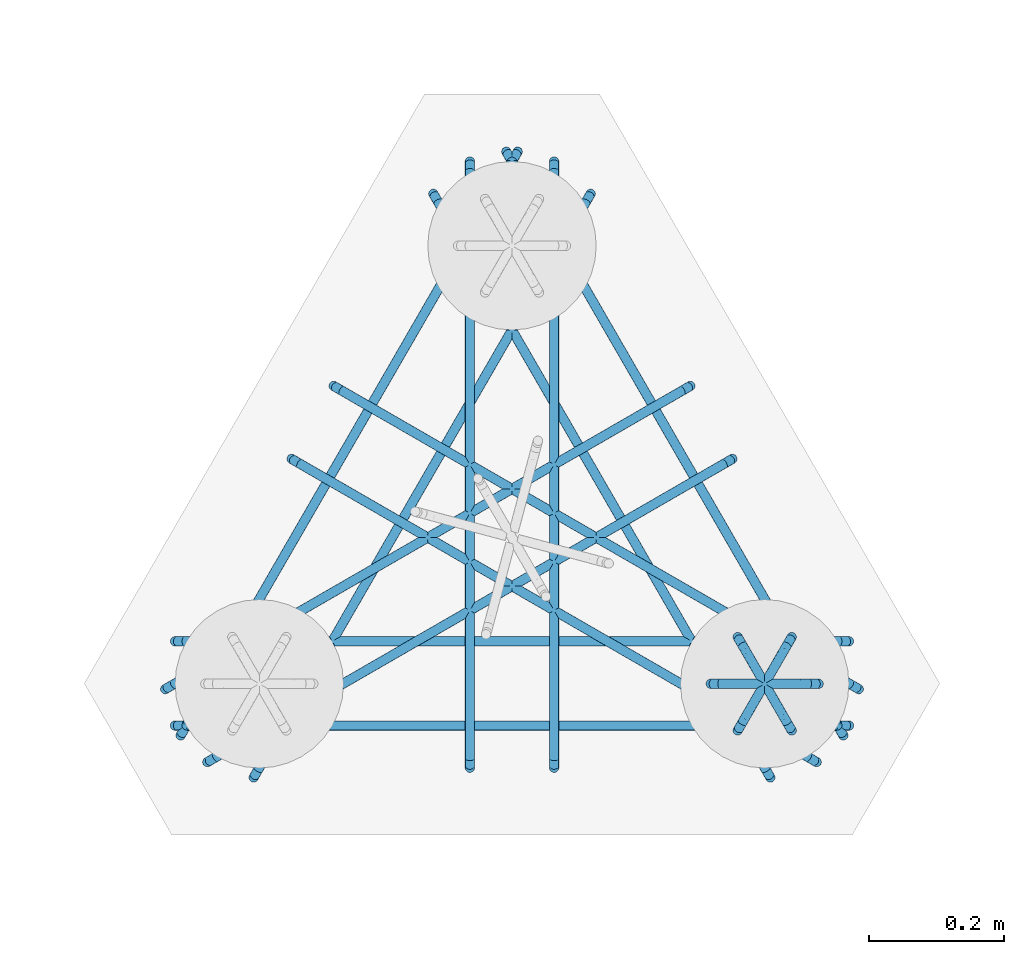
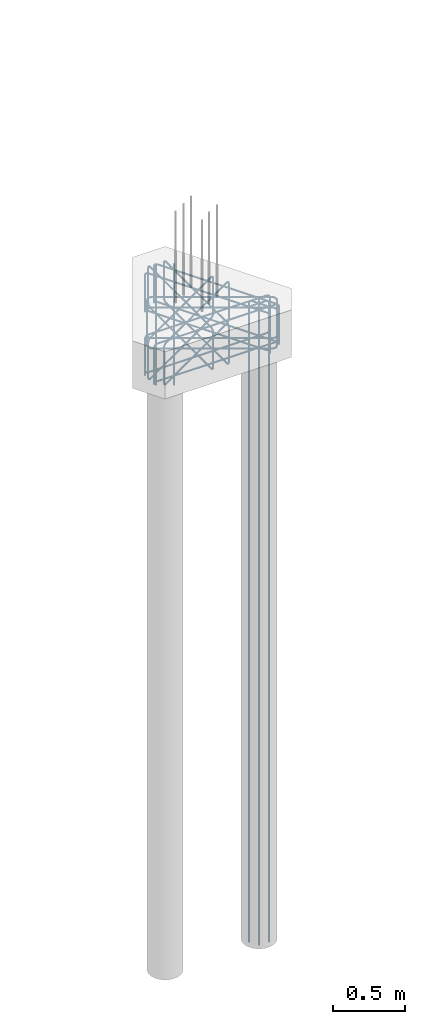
# One storey, part 3 of 23: 2 reinforcing bars.
"""IFC2X3 building model written with IfcOpenShell, lengths in metres."""

from ifc_helpers import new_model, entity, si_unit, direction, frame, origin, place, context, subcontext, project, spatial, shape, source, transform, mapped, element, save


model = new_model("IFC2X3")

# Units and contexts
model_context = context("Model", 3, precision=0.0, world=origin(), true_north=direction((0.0, 1.0)))
plan_context = context("Plan", 3, precision=0.0, world=origin(), true_north=direction((0.0, 1.0)))
body_context = subcontext(model_context, "Body", "Model", "MODEL_VIEW", scale=1.0)
ifc_project = project(units=[si_unit("LENGTHUNIT", "METRE"), si_unit("AREAUNIT", "SQUARE_METRE"), si_unit("VOLUMEUNIT", "CUBIC_METRE"), si_unit("PLANEANGLEUNIT", "RADIAN"), si_unit("THERMODYNAMICTEMPERATUREUNIT", "DEGREE_CELSIUS"), si_unit("FORCEUNIT", "NEWTON"), si_unit("MASSUNIT", "GRAM", prefix="KILO")], contexts=[model_context, plan_context])

# Site, building, storey
placement = place(None, origin())
site = spatial("IfcSite", under=ifc_project, at=placement, Name="Default Site", CompositionType="ELEMENT")
building = spatial("IfcBuilding", under=site, at=placement, Name="Default Building", CompositionType="ELEMENT")
storey_placement = place(placement, frame((0.0, 0.0, 0.0), z_axis=(1.0, 0.0, 0.0), x_axis=(0.0, 0.0, 1.0)))
storey = spatial("IfcBuildingStorey", under=building, at=storey_placement, Name="Piano 0", CompositionType="ELEMENT", Elevation=0.0)

# Reinforcing bars
shared_shape_1 = source(origin(), body_context, None, "AdvancedSweptSolid", [
    entity("IfcSweptDiskSolid", entity("IfcCompositeCurve", [entity("IfcCompositeCurveSegment", "CONTINUOUS", True, entity("IfcPolyline", [entity("IfcCartesianPoint", [0.0, 0.0, 0.0]), entity("IfcCartesianPoint", [0.0, 0.0, -0.252]), entity("IfcCartesianPoint", [0.001876, 0.003249, -0.266]), entity("IfcCartesianPoint", [0.007, 0.012124, -0.276249]), entity("IfcCartesianPoint", [0.014, 0.024249, -0.28]), entity("IfcCartesianPoint", [0.486, 0.841777, -0.28]), entity("IfcCartesianPoint", [0.493, 0.853901, -0.276249]), entity("IfcCartesianPoint", [0.498124, 0.862777, -0.266]), entity("IfcCartesianPoint", [0.5, 0.866025, -0.252]), entity("IfcCartesianPoint", [0.5, 0.866025, 0.0])]))], False), 0.007, 0.0, 0.0),
])
shared_shape_2 = source(origin(), body_context, None, "AdvancedSweptSolid", [
    entity("IfcSweptDiskSolid", entity("IfcCompositeCurve", [entity("IfcCompositeCurveSegment", "CONTINUOUS", True, entity("IfcPolyline", [entity("IfcCartesianPoint", [0.0, 0.0, 0.0]), entity("IfcCartesianPoint", [0.0, 0.0, -0.252]), entity("IfcCartesianPoint", [0.001876, 0.003249, -0.266]), entity("IfcCartesianPoint", [0.007, 0.012124, -0.276249]), entity("IfcCartesianPoint", [0.014, 0.024249, -0.28]), entity("IfcCartesianPoint", [0.486, 0.841777, -0.28]), entity("IfcCartesianPoint", [0.493, 0.853901, -0.276249]), entity("IfcCartesianPoint", [0.498124, 0.862777, -0.266]), entity("IfcCartesianPoint", [0.5, 0.866025, -0.252]), entity("IfcCartesianPoint", [0.5, 0.866025, 0.0])]))], False), 0.007, 0.0, 0.0),
])
shared_shape_3 = source(origin(), body_context, None, "MappedRepresentation", [
    mapped(shared_shape_1, transform((3.616627, -0.35601, -0.079))),
    mapped(shared_shape_2, transform((3.508373, -0.29351, -0.079))),
])
shared_shape_4 = source(origin(), body_context, None, "AdvancedSweptSolid", [
    entity("IfcSweptDiskSolid", entity("IfcCompositeCurve", [entity("IfcCompositeCurveSegment", "CONTINUOUS", True, entity("IfcPolyline", [entity("IfcCartesianPoint", [0.0, 0.0, 0.0]), entity("IfcCartesianPoint", [0.0, 0.0, -0.252]), entity("IfcCartesianPoint", [0.001876, -0.003249, -0.266]), entity("IfcCartesianPoint", [0.007, -0.012124, -0.276249]), entity("IfcCartesianPoint", [0.014, -0.024249, -0.28]), entity("IfcCartesianPoint", [0.486, -0.841777, -0.28]), entity("IfcCartesianPoint", [0.493, -0.853901, -0.276249]), entity("IfcCartesianPoint", [0.498124, -0.862777, -0.266]), entity("IfcCartesianPoint", [0.5, -0.866025, -0.252]), entity("IfcCartesianPoint", [0.5, -0.866025, 0.0])]))], False), 0.007, 0.0, 0.0),
])
shared_shape_5 = source(origin(), body_context, None, "AdvancedSweptSolid", [
    entity("IfcSweptDiskSolid", entity("IfcCompositeCurve", [entity("IfcCompositeCurveSegment", "CONTINUOUS", True, entity("IfcPolyline", [entity("IfcCartesianPoint", [0.0, 0.0, 0.0]), entity("IfcCartesianPoint", [0.0, 0.0, -0.252]), entity("IfcCartesianPoint", [0.001876, -0.003249, -0.266]), entity("IfcCartesianPoint", [0.007, -0.012124, -0.276249]), entity("IfcCartesianPoint", [0.014, -0.024249, -0.28]), entity("IfcCartesianPoint", [0.486, -0.841777, -0.28]), entity("IfcCartesianPoint", [0.493, -0.853901, -0.276249]), entity("IfcCartesianPoint", [0.498124, -0.862777, -0.266]), entity("IfcCartesianPoint", [0.5, -0.866025, -0.252]), entity("IfcCartesianPoint", [0.5, -0.866025, 0.0])]))], False), 0.007, 0.0, 0.0),
])
shared_shape_6 = source(origin(), body_context, None, "MappedRepresentation", [
    mapped(shared_shape_4, transform((3.883373, 0.510016, -0.079))),
    mapped(shared_shape_5, transform((3.991627, 0.572516, -0.079))),
])
shared_shape_7 = source(origin(), body_context, None, "AdvancedSweptSolid", [
    entity("IfcSweptDiskSolid", entity("IfcCompositeCurve", [entity("IfcCompositeCurveSegment", "CONTINUOUS", True, entity("IfcPolyline", [entity("IfcCartesianPoint", [0.0, 0.0, 0.0]), entity("IfcCartesianPoint", [0.0, 0.0, -0.252]), entity("IfcCartesianPoint", [-0.003751, 0.0, -0.266]), entity("IfcCartesianPoint", [-0.014, 0.0, -0.276249]), entity("IfcCartesianPoint", [-0.028, 0.0, -0.28]), entity("IfcCartesianPoint", [-0.972, 0.0, -0.28]), entity("IfcCartesianPoint", [-0.986, 0.0, -0.276249]), entity("IfcCartesianPoint", [-0.996249, 0.0, -0.266]), entity("IfcCartesianPoint", [-1.0, 0.0, -0.252]), entity("IfcCartesianPoint", [-1.0, 0.0, 0.0])]))], False), 0.007, 0.0, 0.0),
])
shared_shape_8 = source(origin(), body_context, None, "AdvancedSweptSolid", [
    entity("IfcSweptDiskSolid", entity("IfcCompositeCurve", [entity("IfcCompositeCurveSegment", "CONTINUOUS", True, entity("IfcPolyline", [entity("IfcCartesianPoint", [0.0, 0.0, 0.0]), entity("IfcCartesianPoint", [0.0, 0.0, -0.252]), entity("IfcCartesianPoint", [-0.003751, 0.0, -0.266]), entity("IfcCartesianPoint", [-0.014, 0.0, -0.276249]), entity("IfcCartesianPoint", [-0.028, 0.0, -0.28]), entity("IfcCartesianPoint", [-0.972, 0.0, -0.28]), entity("IfcCartesianPoint", [-0.986, 0.0, -0.276249]), entity("IfcCartesianPoint", [-0.996249, 0.0, -0.266]), entity("IfcCartesianPoint", [-1.0, 0.0, -0.252]), entity("IfcCartesianPoint", [-1.0, 0.0, 0.0])]))], False), 0.007, 0.0, 0.0),
])
shared_shape_9 = source(origin(), body_context, None, "MappedRepresentation", [
    mapped(shared_shape_7, transform((4.5, -0.154006, -0.079))),
    mapped(shared_shape_8, transform((4.5, -0.279006, -0.079))),
])
shared_shape_10 = source(origin(), body_context, None, "AdvancedSweptSolid", [
    entity("IfcSweptDiskSolid", entity("IfcCompositeCurve", [entity("IfcCompositeCurveSegment", "CONTINUOUS", True, entity("IfcPolyline", [entity("IfcCartesianPoint", [0.0, 0.0, 0.0]), entity("IfcCartesianPoint", [0.0, 0.0, -0.252]), entity("IfcCartesianPoint", [0.003249, 0.001876, -0.266]), entity("IfcCartesianPoint", [0.012124, 0.007, -0.276249]), entity("IfcCartesianPoint", [0.024249, 0.014, -0.28]), entity("IfcCartesianPoint", [0.754758, 0.43576, -0.28]), entity("IfcCartesianPoint", [0.766882, 0.44276, -0.276249]), entity("IfcCartesianPoint", [0.775758, 0.447884, -0.266]), entity("IfcCartesianPoint", [0.779006, 0.44976, -0.252]), entity("IfcCartesianPoint", [0.779006, 0.44976, 0.0])]))], False), 0.007, 0.0, 0.0),
])
shared_shape_11 = source(origin(), body_context, None, "AdvancedSweptSolid", [
    entity("IfcSweptDiskSolid", entity("IfcCompositeCurve", [entity("IfcCompositeCurveSegment", "CONTINUOUS", True, entity("IfcPolyline", [entity("IfcCartesianPoint", [0.0, 0.0, 0.0]), entity("IfcCartesianPoint", [0.0, 0.0, -0.252]), entity("IfcCartesianPoint", [0.003249, 0.001876, -0.266]), entity("IfcCartesianPoint", [0.012124, 0.007, -0.276249]), entity("IfcCartesianPoint", [0.024249, 0.014, -0.28]), entity("IfcCartesianPoint", [0.754758, 0.43576, -0.28]), entity("IfcCartesianPoint", [0.766882, 0.44276, -0.276249]), entity("IfcCartesianPoint", [0.775758, 0.447884, -0.266]), entity("IfcCartesianPoint", [0.779006, 0.44976, -0.252]), entity("IfcCartesianPoint", [0.779006, 0.44976, 0.0])]))], False), 0.007, 0.0, 0.0),
])
shared_shape_12 = source(origin(), body_context, None, "MappedRepresentation", [
    mapped(shared_shape_10, transform((3.547997, -0.333133, -0.093))),
    mapped(shared_shape_11, transform((3.485497, -0.22488, -0.093))),
])
shared_shape_13 = source(origin(), body_context, None, "AdvancedSweptSolid", [
    entity("IfcSweptDiskSolid", entity("IfcCompositeCurve", [entity("IfcCompositeCurveSegment", "CONTINUOUS", True, entity("IfcPolyline", [entity("IfcCartesianPoint", [0.0, 0.0, 0.0]), entity("IfcCartesianPoint", [0.0, 0.0, -0.252]), entity("IfcCartesianPoint", [0.0, -0.003751, -0.266]), entity("IfcCartesianPoint", [0.0, -0.014, -0.276249]), entity("IfcCartesianPoint", [0.0, -0.028, -0.28]), entity("IfcCartesianPoint", [0.0, -0.871519, -0.28]), entity("IfcCartesianPoint", [0.0, -0.885519, -0.276249]), entity("IfcCartesianPoint", [0.0, -0.895768, -0.266]), entity("IfcCartesianPoint", [0.0, -0.899519, -0.252]), entity("IfcCartesianPoint", [0.0, -0.899519, 0.0])]))], False), 0.007, 0.0, 0.0),
])
shared_shape_14 = source(origin(), body_context, None, "AdvancedSweptSolid", [
    entity("IfcSweptDiskSolid", entity("IfcCompositeCurve", [entity("IfcCompositeCurveSegment", "CONTINUOUS", True, entity("IfcPolyline", [entity("IfcCartesianPoint", [0.0, 0.0, 0.0]), entity("IfcCartesianPoint", [0.0, 0.0, -0.252]), entity("IfcCartesianPoint", [0.0, -0.003751, -0.266]), entity("IfcCartesianPoint", [0.0, -0.014, -0.276249]), entity("IfcCartesianPoint", [0.0, -0.028, -0.28]), entity("IfcCartesianPoint", [0.0, -0.871519, -0.28]), entity("IfcCartesianPoint", [0.0, -0.885519, -0.276249]), entity("IfcCartesianPoint", [0.0, -0.895768, -0.266]), entity("IfcCartesianPoint", [0.0, -0.899519, -0.252]), entity("IfcCartesianPoint", [0.0, -0.899519, 0.0])]))], False), 0.007, 0.0, 0.0),
])
shared_shape_15 = source(origin(), body_context, None, "MappedRepresentation", [
    mapped(shared_shape_13, transform((3.9375, 0.558013, -0.093))),
    mapped(shared_shape_14, transform((4.0625, 0.558013, -0.093))),
])
shared_shape_16 = source(origin(), body_context, None, "AdvancedSweptSolid", [
    entity("IfcSweptDiskSolid", entity("IfcCompositeCurve", [entity("IfcCompositeCurveSegment", "CONTINUOUS", True, entity("IfcPolyline", [entity("IfcCartesianPoint", [0.0, 0.0, 0.0]), entity("IfcCartesianPoint", [0.0, 0.0, -0.252]), entity("IfcCartesianPoint", [-0.003249, 0.001876, -0.266]), entity("IfcCartesianPoint", [-0.012124, 0.007, -0.276249]), entity("IfcCartesianPoint", [-0.024249, 0.014, -0.28]), entity("IfcCartesianPoint", [-0.754758, 0.43576, -0.28]), entity("IfcCartesianPoint", [-0.766882, 0.44276, -0.276249]), entity("IfcCartesianPoint", [-0.775758, 0.447884, -0.266]), entity("IfcCartesianPoint", [-0.779006, 0.44976, -0.252]), entity("IfcCartesianPoint", [-0.779006, 0.44976, 0.0])]))], False), 0.007, 0.0, 0.0),
])
shared_shape_17 = source(origin(), body_context, None, "AdvancedSweptSolid", [
    entity("IfcSweptDiskSolid", entity("IfcCompositeCurve", [entity("IfcCompositeCurveSegment", "CONTINUOUS", True, entity("IfcPolyline", [entity("IfcCartesianPoint", [0.0, 0.0, 0.0]), entity("IfcCartesianPoint", [0.0, 0.0, -0.252]), entity("IfcCartesianPoint", [-0.003249, 0.001876, -0.266]), entity("IfcCartesianPoint", [-0.012124, 0.007, -0.276249]), entity("IfcCartesianPoint", [-0.024249, 0.014, -0.28]), entity("IfcCartesianPoint", [-0.754758, 0.43576, -0.28]), entity("IfcCartesianPoint", [-0.766882, 0.44276, -0.276249]), entity("IfcCartesianPoint", [-0.775758, 0.447884, -0.266]), entity("IfcCartesianPoint", [-0.779006, 0.44976, -0.252]), entity("IfcCartesianPoint", [-0.779006, 0.44976, 0.0])]))], False), 0.007, 0.0, 0.0),
])
shared_shape_18 = source(origin(), body_context, None, "MappedRepresentation", [
    mapped(shared_shape_16, transform((4.514503, -0.22488, -0.093))),
    mapped(shared_shape_17, transform((4.452003, -0.333133, -0.093))),
])
shared_shape_19 = source(origin(), body_context, None, "AdvancedSweptSolid", [
    entity("IfcSweptDiskSolid", entity("IfcCompositeCurve", [entity("IfcCompositeCurveSegment", "CONTINUOUS", True, entity("IfcPolyline", [entity("IfcCartesianPoint", [0.0, 0.0, 0.0]), entity("IfcCartesianPoint", [0.0, 0.0, 0.306]), entity("IfcCartesianPoint", [0.001876, 0.003249, 0.32]), entity("IfcCartesianPoint", [0.007, 0.012124, 0.330249]), entity("IfcCartesianPoint", [0.014, 0.024249, 0.334]), entity("IfcCartesianPoint", [0.486, 0.841777, 0.334]), entity("IfcCartesianPoint", [0.493, 0.853901, 0.330249]), entity("IfcCartesianPoint", [0.498124, 0.862777, 0.32]), entity("IfcCartesianPoint", [0.5, 0.866025, 0.306]), entity("IfcCartesianPoint", [0.5, 0.866025, 0.0])]))], False), 0.007, 0.0, 0.0),
])
shared_shape_20 = source(origin(), body_context, None, "AdvancedSweptSolid", [
    entity("IfcSweptDiskSolid", entity("IfcCompositeCurve", [entity("IfcCompositeCurveSegment", "CONTINUOUS", True, entity("IfcPolyline", [entity("IfcCartesianPoint", [0.0, 0.0, 0.0]), entity("IfcCartesianPoint", [0.0, 0.0, 0.306]), entity("IfcCartesianPoint", [0.001876, 0.003249, 0.32]), entity("IfcCartesianPoint", [0.007, 0.012124, 0.330249]), entity("IfcCartesianPoint", [0.014, 0.024249, 0.334]), entity("IfcCartesianPoint", [0.486, 0.841777, 0.334]), entity("IfcCartesianPoint", [0.493, 0.853901, 0.330249]), entity("IfcCartesianPoint", [0.498124, 0.862777, 0.32]), entity("IfcCartesianPoint", [0.5, 0.866025, 0.306]), entity("IfcCartesianPoint", [0.5, 0.866025, 0.0])]))], False), 0.007, 0.0, 0.0),
])
shared_shape_21 = source(origin(), body_context, None, "MappedRepresentation", [
    mapped(shared_shape_19, transform((3.616627, -0.35601, -0.375))),
    mapped(shared_shape_20, transform((3.508373, -0.29351, -0.375))),
])
shared_shape_22 = source(origin(), body_context, None, "AdvancedSweptSolid", [
    entity("IfcSweptDiskSolid", entity("IfcCompositeCurve", [entity("IfcCompositeCurveSegment", "CONTINUOUS", True, entity("IfcPolyline", [entity("IfcCartesianPoint", [0.0, 0.0, 0.0]), entity("IfcCartesianPoint", [0.0, 0.0, 0.306]), entity("IfcCartesianPoint", [0.001876, -0.003249, 0.32]), entity("IfcCartesianPoint", [0.007, -0.012124, 0.330249]), entity("IfcCartesianPoint", [0.014, -0.024249, 0.334]), entity("IfcCartesianPoint", [0.486, -0.841777, 0.334]), entity("IfcCartesianPoint", [0.493, -0.853901, 0.330249]), entity("IfcCartesianPoint", [0.498124, -0.862777, 0.32]), entity("IfcCartesianPoint", [0.5, -0.866025, 0.306]), entity("IfcCartesianPoint", [0.5, -0.866025, 0.0])]))], False), 0.007, 0.0, 0.0),
])
shared_shape_23 = source(origin(), body_context, None, "AdvancedSweptSolid", [
    entity("IfcSweptDiskSolid", entity("IfcCompositeCurve", [entity("IfcCompositeCurveSegment", "CONTINUOUS", True, entity("IfcPolyline", [entity("IfcCartesianPoint", [0.0, 0.0, 0.0]), entity("IfcCartesianPoint", [0.0, 0.0, 0.306]), entity("IfcCartesianPoint", [0.001876, -0.003249, 0.32]), entity("IfcCartesianPoint", [0.007, -0.012124, 0.330249]), entity("IfcCartesianPoint", [0.014, -0.024249, 0.334]), entity("IfcCartesianPoint", [0.486, -0.841777, 0.334]), entity("IfcCartesianPoint", [0.493, -0.853901, 0.330249]), entity("IfcCartesianPoint", [0.498124, -0.862777, 0.32]), entity("IfcCartesianPoint", [0.5, -0.866025, 0.306]), entity("IfcCartesianPoint", [0.5, -0.866025, 0.0])]))], False), 0.007, 0.0, 0.0),
])
shared_shape_24 = source(origin(), body_context, None, "MappedRepresentation", [
    mapped(shared_shape_22, transform((3.883373, 0.510016, -0.375))),
    mapped(shared_shape_23, transform((3.991627, 0.572516, -0.375))),
])
shared_shape_25 = source(origin(), body_context, None, "AdvancedSweptSolid", [
    entity("IfcSweptDiskSolid", entity("IfcCompositeCurve", [entity("IfcCompositeCurveSegment", "CONTINUOUS", True, entity("IfcPolyline", [entity("IfcCartesianPoint", [0.0, 0.0, 0.0]), entity("IfcCartesianPoint", [0.0, 0.0, 0.306]), entity("IfcCartesianPoint", [-0.003751, 0.0, 0.32]), entity("IfcCartesianPoint", [-0.014, 0.0, 0.330249]), entity("IfcCartesianPoint", [-0.028, 0.0, 0.334]), entity("IfcCartesianPoint", [-0.972, 0.0, 0.334]), entity("IfcCartesianPoint", [-0.986, 0.0, 0.330249]), entity("IfcCartesianPoint", [-0.996249, 0.0, 0.32]), entity("IfcCartesianPoint", [-1.0, 0.0, 0.306]), entity("IfcCartesianPoint", [-1.0, 0.0, 0.0])]))], False), 0.007, 0.0, 0.0),
])
shared_shape_26 = source(origin(), body_context, None, "AdvancedSweptSolid", [
    entity("IfcSweptDiskSolid", entity("IfcCompositeCurve", [entity("IfcCompositeCurveSegment", "CONTINUOUS", True, entity("IfcPolyline", [entity("IfcCartesianPoint", [0.0, 0.0, 0.0]), entity("IfcCartesianPoint", [0.0, 0.0, 0.306]), entity("IfcCartesianPoint", [-0.003751, 0.0, 0.32]), entity("IfcCartesianPoint", [-0.014, 0.0, 0.330249]), entity("IfcCartesianPoint", [-0.028, 0.0, 0.334]), entity("IfcCartesianPoint", [-0.972, 0.0, 0.334]), entity("IfcCartesianPoint", [-0.986, 0.0, 0.330249]), entity("IfcCartesianPoint", [-0.996249, 0.0, 0.32]), entity("IfcCartesianPoint", [-1.0, 0.0, 0.306]), entity("IfcCartesianPoint", [-1.0, 0.0, 0.0])]))], False), 0.007, 0.0, 0.0),
])
shared_shape_27 = source(origin(), body_context, None, "MappedRepresentation", [
    mapped(shared_shape_25, transform((4.5, -0.154006, -0.375))),
    mapped(shared_shape_26, transform((4.5, -0.279006, -0.375))),
])
shared_shape_28 = source(origin(), body_context, None, "AdvancedSweptSolid", [
    entity("IfcSweptDiskSolid", entity("IfcCompositeCurve", [entity("IfcCompositeCurveSegment", "CONTINUOUS", True, entity("IfcPolyline", [entity("IfcCartesianPoint", [0.0, 0.0, 0.0]), entity("IfcCartesianPoint", [0.0, 0.0, 0.252]), entity("IfcCartesianPoint", [0.003249, 0.001876, 0.266]), entity("IfcCartesianPoint", [0.012124, 0.007, 0.276249]), entity("IfcCartesianPoint", [0.024249, 0.014, 0.28]), entity("IfcCartesianPoint", [0.754758, 0.43576, 0.28]), entity("IfcCartesianPoint", [0.766882, 0.44276, 0.276249]), entity("IfcCartesianPoint", [0.775758, 0.447884, 0.266]), entity("IfcCartesianPoint", [0.779006, 0.44976, 0.252]), entity("IfcCartesianPoint", [0.779006, 0.44976, 0.0])]))], False), 0.007, 0.0, 0.0),
])
shared_shape_29 = source(origin(), body_context, None, "AdvancedSweptSolid", [
    entity("IfcSweptDiskSolid", entity("IfcCompositeCurve", [entity("IfcCompositeCurveSegment", "CONTINUOUS", True, entity("IfcPolyline", [entity("IfcCartesianPoint", [0.0, 0.0, 0.0]), entity("IfcCartesianPoint", [0.0, 0.0, 0.252]), entity("IfcCartesianPoint", [0.003249, 0.001876, 0.266]), entity("IfcCartesianPoint", [0.012124, 0.007, 0.276249]), entity("IfcCartesianPoint", [0.024249, 0.014, 0.28]), entity("IfcCartesianPoint", [0.754758, 0.43576, 0.28]), entity("IfcCartesianPoint", [0.766882, 0.44276, 0.276249]), entity("IfcCartesianPoint", [0.775758, 0.447884, 0.266]), entity("IfcCartesianPoint", [0.779006, 0.44976, 0.252]), entity("IfcCartesianPoint", [0.779006, 0.44976, 0.0])]))], False), 0.007, 0.0, 0.0),
])
shared_shape_30 = source(origin(), body_context, None, "MappedRepresentation", [
    mapped(shared_shape_28, transform((3.547997, -0.333133, -0.307))),
    mapped(shared_shape_29, transform((3.485497, -0.22488, -0.307))),
])
shared_shape_31 = source(origin(), body_context, None, "AdvancedSweptSolid", [
    entity("IfcSweptDiskSolid", entity("IfcCompositeCurve", [entity("IfcCompositeCurveSegment", "CONTINUOUS", True, entity("IfcPolyline", [entity("IfcCartesianPoint", [0.0, 0.0, 0.0]), entity("IfcCartesianPoint", [0.0, 0.0, 0.252]), entity("IfcCartesianPoint", [0.0, -0.003751, 0.266]), entity("IfcCartesianPoint", [0.0, -0.014, 0.276249]), entity("IfcCartesianPoint", [0.0, -0.028, 0.28]), entity("IfcCartesianPoint", [0.0, -0.871519, 0.28]), entity("IfcCartesianPoint", [0.0, -0.885519, 0.276249]), entity("IfcCartesianPoint", [0.0, -0.895768, 0.266]), entity("IfcCartesianPoint", [0.0, -0.899519, 0.252]), entity("IfcCartesianPoint", [0.0, -0.899519, 0.0])]))], False), 0.007, 0.0, 0.0),
])
shared_shape_32 = source(origin(), body_context, None, "AdvancedSweptSolid", [
    entity("IfcSweptDiskSolid", entity("IfcCompositeCurve", [entity("IfcCompositeCurveSegment", "CONTINUOUS", True, entity("IfcPolyline", [entity("IfcCartesianPoint", [0.0, 0.0, 0.0]), entity("IfcCartesianPoint", [0.0, 0.0, 0.252]), entity("IfcCartesianPoint", [0.0, -0.003751, 0.266]), entity("IfcCartesianPoint", [0.0, -0.014, 0.276249]), entity("IfcCartesianPoint", [0.0, -0.028, 0.28]), entity("IfcCartesianPoint", [0.0, -0.871519, 0.28]), entity("IfcCartesianPoint", [0.0, -0.885519, 0.276249]), entity("IfcCartesianPoint", [0.0, -0.895768, 0.266]), entity("IfcCartesianPoint", [0.0, -0.899519, 0.252]), entity("IfcCartesianPoint", [0.0, -0.899519, 0.0])]))], False), 0.007, 0.0, 0.0),
])
shared_shape_33 = source(origin(), body_context, None, "MappedRepresentation", [
    mapped(shared_shape_31, transform((3.9375, 0.558013, -0.307))),
    mapped(shared_shape_32, transform((4.0625, 0.558013, -0.307))),
])
shared_shape_34 = source(origin(), body_context, None, "AdvancedSweptSolid", [
    entity("IfcSweptDiskSolid", entity("IfcCompositeCurve", [entity("IfcCompositeCurveSegment", "CONTINUOUS", True, entity("IfcPolyline", [entity("IfcCartesianPoint", [0.0, 0.0, 0.0]), entity("IfcCartesianPoint", [0.0, 0.0, 0.252]), entity("IfcCartesianPoint", [-0.003249, 0.001876, 0.266]), entity("IfcCartesianPoint", [-0.012124, 0.007, 0.276249]), entity("IfcCartesianPoint", [-0.024249, 0.014, 0.28]), entity("IfcCartesianPoint", [-0.754758, 0.43576, 0.28]), entity("IfcCartesianPoint", [-0.766882, 0.44276, 0.276249]), entity("IfcCartesianPoint", [-0.775758, 0.447884, 0.266]), entity("IfcCartesianPoint", [-0.779006, 0.44976, 0.252]), entity("IfcCartesianPoint", [-0.779006, 0.44976, 0.0])]))], False), 0.007, 0.0, 0.0),
])
shared_shape_35 = source(origin(), body_context, None, "AdvancedSweptSolid", [
    entity("IfcSweptDiskSolid", entity("IfcCompositeCurve", [entity("IfcCompositeCurveSegment", "CONTINUOUS", True, entity("IfcPolyline", [entity("IfcCartesianPoint", [0.0, 0.0, 0.0]), entity("IfcCartesianPoint", [0.0, 0.0, 0.252]), entity("IfcCartesianPoint", [-0.003249, 0.001876, 0.266]), entity("IfcCartesianPoint", [-0.012124, 0.007, 0.276249]), entity("IfcCartesianPoint", [-0.024249, 0.014, 0.28]), entity("IfcCartesianPoint", [-0.754758, 0.43576, 0.28]), entity("IfcCartesianPoint", [-0.766882, 0.44276, 0.276249]), entity("IfcCartesianPoint", [-0.775758, 0.447884, 0.266]), entity("IfcCartesianPoint", [-0.779006, 0.44976, 0.252]), entity("IfcCartesianPoint", [-0.779006, 0.44976, 0.0])]))], False), 0.007, 0.0, 0.0),
])
shared_shape_36 = source(origin(), body_context, None, "MappedRepresentation", [
    mapped(shared_shape_34, transform((4.514503, -0.22488, -0.307))),
    mapped(shared_shape_35, transform((4.452003, -0.333133, -0.307))),
])
element("IfcReinforcingBar", 1, at=placement, inside=storey, Name="Arm Inferiore; Plinto:2 [Piano:0]", BarLength=36.281345, BarRole="MAIN", BarSurface="TEXTURED", NominalDiameter=0.014, shapes=[
    shape(body_context, None, "MappedRepresentation", [mapped(shared_shape_3, transform((0.0, 0.0, 0.0))), mapped(shared_shape_6, transform((0.0, 0.0, 0.0))), mapped(shared_shape_9, transform((0.0, 0.0, 0.0))), mapped(shared_shape_12, transform((0.0, 0.0, 0.0))), mapped(shared_shape_15, transform((0.0, 0.0, 0.0))), mapped(shared_shape_18, transform((0.0, 0.0, 0.0))), mapped(shared_shape_21, transform((0.0, 0.0, 0.0))), mapped(shared_shape_24, transform((0.0, 0.0, 0.0))), mapped(shared_shape_27, transform((0.0, 0.0, 0.0))), mapped(shared_shape_30, transform((0.0, 0.0, 0.0))), mapped(shared_shape_33, transform((0.0, 0.0, 0.0))), mapped(shared_shape_36, transform((0.0, 0.0, 0.0)))]),
])
shared_shape_37 = source(origin(), body_context, None, "AdvancedSweptSolid", [
    entity("IfcSweptDiskSolid", entity("IfcCompositeCurve", [entity("IfcCompositeCurveSegment", "CONTINUOUS", True, entity("IfcPolyline", [entity("IfcCartesianPoint", [0.0, 0.0, 0.0]), entity("IfcCartesianPoint", [-0.112, 0.0, 0.0]), entity("IfcCartesianPoint", [-0.126, 0.0, -0.003751]), entity("IfcCartesianPoint", [-0.136249, 0.0, -0.014]), entity("IfcCartesianPoint", [-0.14, 0.0, -0.028]), entity("IfcCartesianPoint", [-0.14, 0.0, -5.365])]))], False), 0.007, 0.0, 0.0),
])
shared_shape_38 = source(origin(), body_context, None, "AdvancedSweptSolid", [
    entity("IfcSweptDiskSolid", entity("IfcCompositeCurve", [entity("IfcCompositeCurveSegment", "CONTINUOUS", True, entity("IfcPolyline", [entity("IfcCartesianPoint", [0.0, 0.0, 0.0]), entity("IfcCartesianPoint", [-0.112, 0.0, 0.0]), entity("IfcCartesianPoint", [-0.126, 0.0, -0.003751]), entity("IfcCartesianPoint", [-0.136249, 0.0, -0.014]), entity("IfcCartesianPoint", [-0.14, 0.0, -0.028]), entity("IfcCartesianPoint", [-0.14, 0.0, -5.365])]))], False), 0.007, 0.0, 0.0),
])
shared_shape_39 = source(origin(), body_context, None, "AdvancedSweptSolid", [
    entity("IfcSweptDiskSolid", entity("IfcCompositeCurve", [entity("IfcCompositeCurveSegment", "CONTINUOUS", True, entity("IfcPolyline", [entity("IfcCartesianPoint", [0.0, 0.0, 0.0]), entity("IfcCartesianPoint", [-0.112, 0.0, 0.0]), entity("IfcCartesianPoint", [-0.126, 0.0, -0.003751]), entity("IfcCartesianPoint", [-0.136249, 0.0, -0.014]), entity("IfcCartesianPoint", [-0.14, 0.0, -0.028]), entity("IfcCartesianPoint", [-0.14, 0.0, -5.365])]))], False), 0.007, 0.0, 0.0),
])
shared_shape_40 = source(origin(), body_context, None, "AdvancedSweptSolid", [
    entity("IfcSweptDiskSolid", entity("IfcCompositeCurve", [entity("IfcCompositeCurveSegment", "CONTINUOUS", True, entity("IfcPolyline", [entity("IfcCartesianPoint", [0.0, 0.0, 0.0]), entity("IfcCartesianPoint", [-0.112, 0.0, 0.0]), entity("IfcCartesianPoint", [-0.126, 0.0, -0.003751]), entity("IfcCartesianPoint", [-0.136249, 0.0, -0.014]), entity("IfcCartesianPoint", [-0.14, 0.0, -0.028]), entity("IfcCartesianPoint", [-0.14, 0.0, -5.365])]))], False), 0.007, 0.0, 0.0),
])
shared_shape_41 = source(origin(), body_context, None, "AdvancedSweptSolid", [
    entity("IfcSweptDiskSolid", entity("IfcCompositeCurve", [entity("IfcCompositeCurveSegment", "CONTINUOUS", True, entity("IfcPolyline", [entity("IfcCartesianPoint", [0.0, 0.0, 0.0]), entity("IfcCartesianPoint", [-0.112, 0.0, 0.0]), entity("IfcCartesianPoint", [-0.126, 0.0, -0.003751]), entity("IfcCartesianPoint", [-0.136249, 0.0, -0.014]), entity("IfcCartesianPoint", [-0.14, 0.0, -0.028]), entity("IfcCartesianPoint", [-0.14, 0.0, -5.365])]))], False), 0.007, 0.0, 0.0),
])
shared_shape_42 = source(origin(), body_context, None, "AdvancedSweptSolid", [
    entity("IfcSweptDiskSolid", entity("IfcCompositeCurve", [entity("IfcCompositeCurveSegment", "CONTINUOUS", True, entity("IfcPolyline", [entity("IfcCartesianPoint", [0.0, 0.0, 0.0]), entity("IfcCartesianPoint", [-0.112, 0.0, 0.0]), entity("IfcCartesianPoint", [-0.126, 0.0, -0.003751]), entity("IfcCartesianPoint", [-0.136249, 0.0, -0.014]), entity("IfcCartesianPoint", [-0.14, 0.0, -0.028]), entity("IfcCartesianPoint", [-0.14, 0.0, -5.365])]))], False), 0.007, 0.0, 0.0),
])
element("IfcReinforcingBar", 2, at=placement, inside=storey, Name="Arm Principale; Palo:3 Filo:2 [Piano:0]", BarLength=33.03, BarRole="MAIN", BarSurface="TEXTURED", NominalDiameter=0.014, shapes=[
    shape(body_context, None, "MappedRepresentation", [mapped(shared_shape_37, transform((4.435, -0.217, -0.035))), mapped(shared_shape_38, transform((4.405, -0.165038, -0.035), x_axis=(0.5, 0.866025, 0.0), y_axis=(-0.866025, 0.5, 0.0))), mapped(shared_shape_39, transform((4.345, -0.165038, -0.035), x_axis=(-0.5, 0.866025, 0.0), y_axis=(-0.866025, -0.5, 0.0))), mapped(shared_shape_40, transform((4.315, -0.217, -0.035), x_axis=(-1.0, 0.0, 0.0), y_axis=(0.0, -1.0, 0.0))), mapped(shared_shape_41, transform((4.345, -0.268962, -0.035), x_axis=(-0.5, -0.866025, 0.0), y_axis=(0.866025, -0.5, 0.0))), mapped(shared_shape_42, transform((4.405, -0.268962, -0.035), x_axis=(0.5, -0.866025, 0.0), y_axis=(0.866025, 0.5, 0.0)))]),
])

save(model, "model.ifc")
